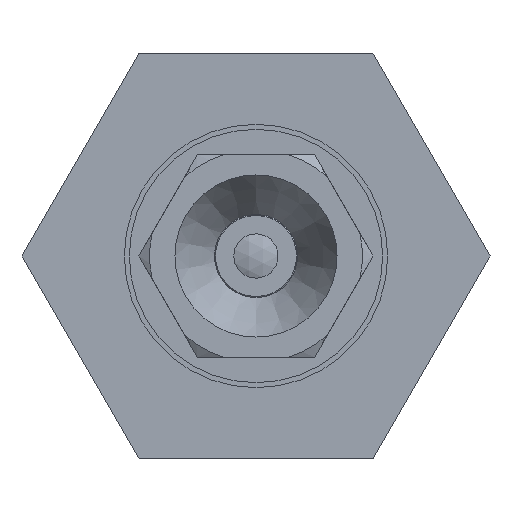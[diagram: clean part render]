
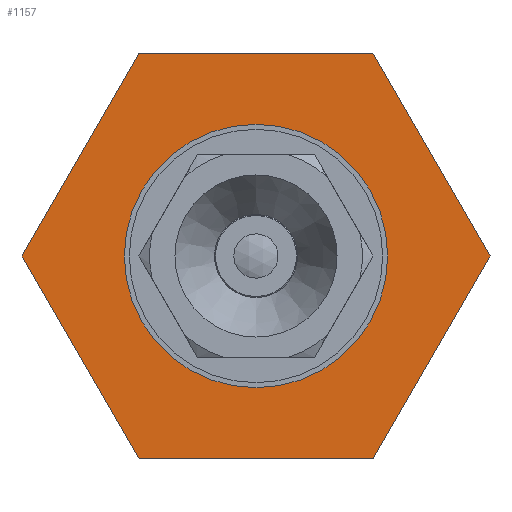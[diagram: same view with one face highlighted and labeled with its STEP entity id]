
A CAD part, front view. The second image highlights one B-rep face of the part: STEP entity #1157.
In plain terms, the highlighted planar face has unit normal (0, -1, 0) as drawn and (-1, 0, 0) by its records, which use the part's own axes.
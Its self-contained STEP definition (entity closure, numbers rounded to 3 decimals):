
#52=LINE('',#2387,#88);
#55=LINE('',#2393,#91);
#58=LINE('',#2399,#94);
#61=LINE('',#2405,#97);
#64=LINE('',#2411,#100);
#67=LINE('',#2416,#103);
#88=VECTOR('',#1970,1000.);
#91=VECTOR('',#1975,1000.);
#94=VECTOR('',#1980,1000.);
#97=VECTOR('',#1985,1000.);
#100=VECTOR('',#1990,1000.);
#103=VECTOR('',#1995,1000.);
#169=PLANE('',#1720);
#368=ORIENTED_EDGE('',*,*,#558,.F.);
#369=ORIENTED_EDGE('',*,*,#557,.F.);
#370=ORIENTED_EDGE('',*,*,#554,.F.);
#371=ORIENTED_EDGE('',*,*,#551,.F.);
#372=ORIENTED_EDGE('',*,*,#548,.F.);
#373=ORIENTED_EDGE('',*,*,#545,.F.);
#374=ORIENTED_EDGE('',*,*,#542,.F.);
#542=EDGE_CURVE('',#655,#656,#52,.T.);
#545=EDGE_CURVE('',#656,#658,#55,.T.);
#548=EDGE_CURVE('',#658,#660,#58,.T.);
#551=EDGE_CURVE('',#660,#662,#61,.T.);
#554=EDGE_CURVE('',#662,#664,#64,.T.);
#557=EDGE_CURVE('',#664,#655,#67,.T.);
#558=EDGE_CURVE('',#665,#665,#741,.T.);
#655=VERTEX_POINT('',#2386);
#656=VERTEX_POINT('',#2388);
#658=VERTEX_POINT('',#2394);
#660=VERTEX_POINT('',#2400);
#662=VERTEX_POINT('',#2406);
#664=VERTEX_POINT('',#2412);
#665=VERTEX_POINT('',#2419);
#741=CIRCLE('',#1721,6.5);
#845=EDGE_LOOP('',(#368));
#846=EDGE_LOOP('',(#369,#370,#371,#372,#373,#374));
#1008=FACE_BOUND('',#845,.T.);
#1009=FACE_BOUND('',#846,.T.);
#1157=ADVANCED_FACE('',(#1008,#1009),#169,.F.);
#1720=AXIS2_PLACEMENT_3D('',#2417,#1996,#1997);
#1721=AXIS2_PLACEMENT_3D('',#2418,#1998,#1999);
#1970=DIRECTION('',(0.,-0.5,0.866));
#1975=DIRECTION('',(0.,-1.,0.));
#1980=DIRECTION('',(0.,-0.5,-0.866));
#1985=DIRECTION('',(0.,0.5,-0.866));
#1990=DIRECTION('',(0.,1.,0.));
#1995=DIRECTION('',(0.,0.5,0.866));
#1996=DIRECTION('',(1.,0.,0.));
#1997=DIRECTION('',(0.,0.,-1.));
#1998=DIRECTION('',(-1.,0.,0.));
#1999=DIRECTION('',(0.,0.,1.));
#2386=CARTESIAN_POINT('',(8.,11.547,0.));
#2387=CARTESIAN_POINT('',(8.,11.547,0.));
#2388=CARTESIAN_POINT('',(8.,5.774,10.));
#2393=CARTESIAN_POINT('',(8.,5.774,10.));
#2394=CARTESIAN_POINT('',(8.,-5.774,10.));
#2399=CARTESIAN_POINT('',(8.,-5.774,10.));
#2400=CARTESIAN_POINT('',(8.,-11.547,0.));
#2405=CARTESIAN_POINT('',(8.,-11.547,0.));
#2406=CARTESIAN_POINT('',(8.,-5.774,-10.));
#2411=CARTESIAN_POINT('',(8.,-5.774,-10.));
#2412=CARTESIAN_POINT('',(8.,5.774,-10.));
#2416=CARTESIAN_POINT('',(8.,5.774,-10.));
#2417=CARTESIAN_POINT('',(8.,0.,12.5));
#2418=CARTESIAN_POINT('',(8.,0.,0.));
#2419=CARTESIAN_POINT('',(8.,0.,6.5));
